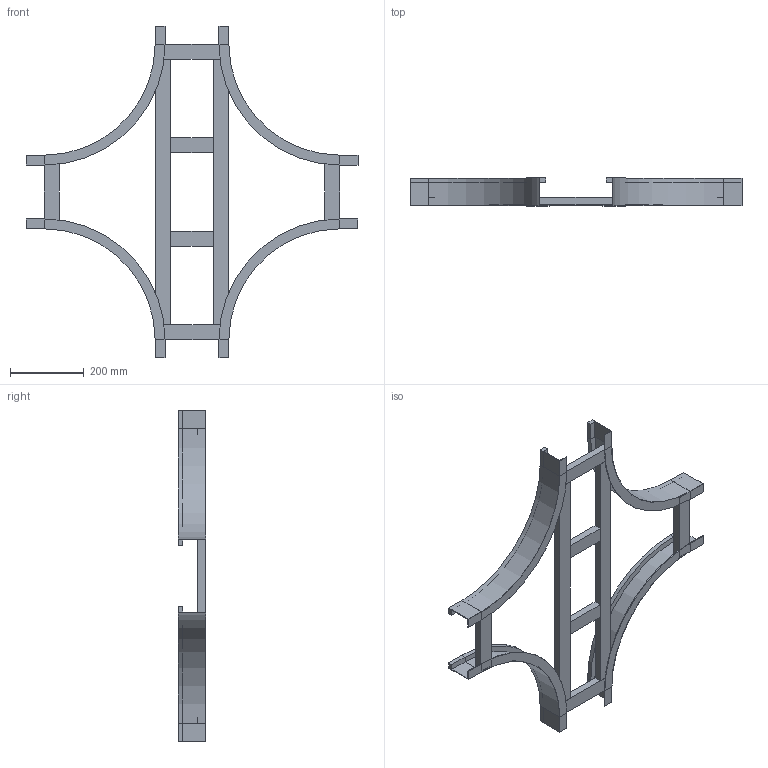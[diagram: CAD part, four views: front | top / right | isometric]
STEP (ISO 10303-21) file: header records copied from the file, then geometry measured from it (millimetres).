
FILE_DESCRIPTION (( 'STEP AP214' ), '1' );
FILE_NAME ('B2_17B3C200.step', '2025-02-21T15:59:01', ( '' ), ( '' ), 'SwSTEP 2.0', 'SolidWorks 2023', '' );
FILE_SCHEMA (( 'AUTOMOTIVE_DESIGN' ));
Length unit declared in the file: millimetre
Products named in the file (5): B2_TRAVERSINO_LONG._R300+200; TRAVERSINO_INTERMEDIO_R300+200; B2_17B3C200; TRAVERSINO_200; B2_LONGH.INTERNO 90°_H75_R300
Assembly tree (12 placements, depth 2):
  B2_17B3C200
    B2_LONGH.INTERNO 90°_H75_R300  x4
    TRAVERSINO_200  x4
    B2_TRAVERSINO_LONG._R300+200  x2
    TRAVERSINO_INTERMEDIO_R300+200  x2
Bounding box: 900 x 75 x 900 mm (x, y, z)
Volume: 2899384.1 mm3; surface area: 861091.6 mm2
Topology: 12 solids, 12 shells, 152 faces, 320 edges, 192 vertices
Faces by surface type: plane 136, cylinder 16
Entity records: 1354 total; most frequent: DIRECTION 218, CARTESIAN_POINT 207, ORIENTED_EDGE 184, EDGE_CURVE 92, VECTOR 84, LINE 84, AXIS2_PLACEMENT_3D 67, VERTEX_POINT 56
